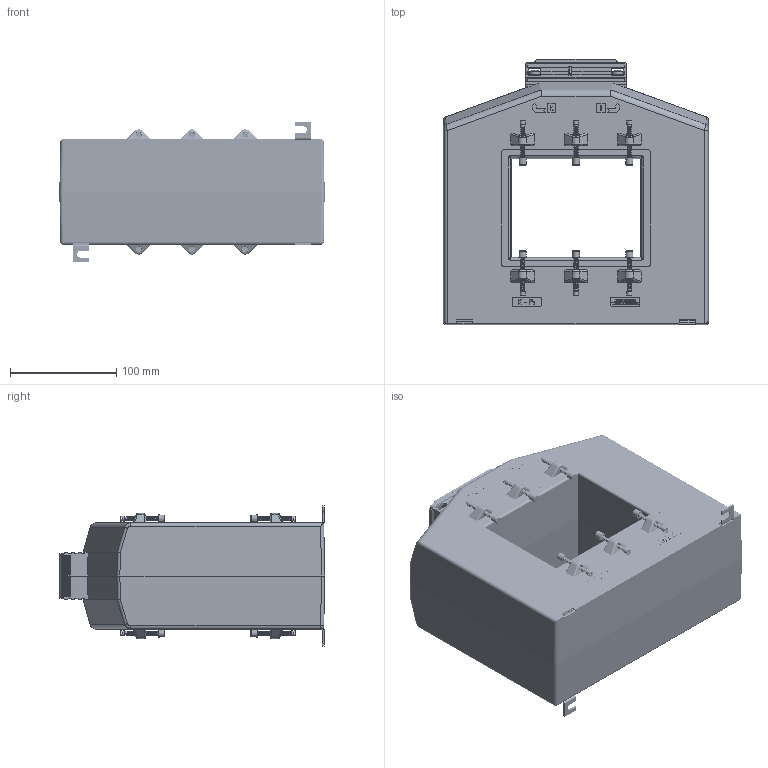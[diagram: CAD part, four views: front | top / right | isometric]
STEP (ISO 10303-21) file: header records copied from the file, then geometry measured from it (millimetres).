
FILE_DESCRIPTION(/* description */ (''),/* implementation_level */ '2;1');
FILE_NAME(/* name */ 'ASK129.1.stp',/* time_stamp */ '2024-03-04T14:52:58+01:00',/* author */ ('JDI'),/* organization */ (''),/* preprocessor_version */ 'ST-DEVELOPER v19.2',/* originating_system */ 'Autodesk Inventor 2023',/* authorisation */ '');
FILE_SCHEMA (('AUTOMOTIVE_DESIGN { 1 0 10303 214 3 1 1 }'));
Products named in the file (1): ASK129.1
Bounding box: 250 x 250 x 132 mm (x, y, z)
Volume: 4233532.3 mm3; surface area: 251853.7 mm2
Topology: 1 solids, 1 shells, 2575 faces, 6997 edges, 4509 vertices
Faces by surface type: plane 1337, cylinder 756, bspline 380, cone 80, torus 16, sphere 6
Full cylindrical faces by diameter (mm): 2 x1, 3 x216, 3.75 x36, 3.8 x24, 4 x144, 4.1 x12, 5 x12, 5.8 x12, 10 x4
Entity records: 145958 total; most frequent: CARTESIAN_POINT 83060, ORIENTED_EDGE 13994, DIRECTION 10406, EDGE_CURVE 6997, VERTEX_POINT 4509, LINE 4224, VECTOR 4224, AXIS2_PLACEMENT_3D 3091
